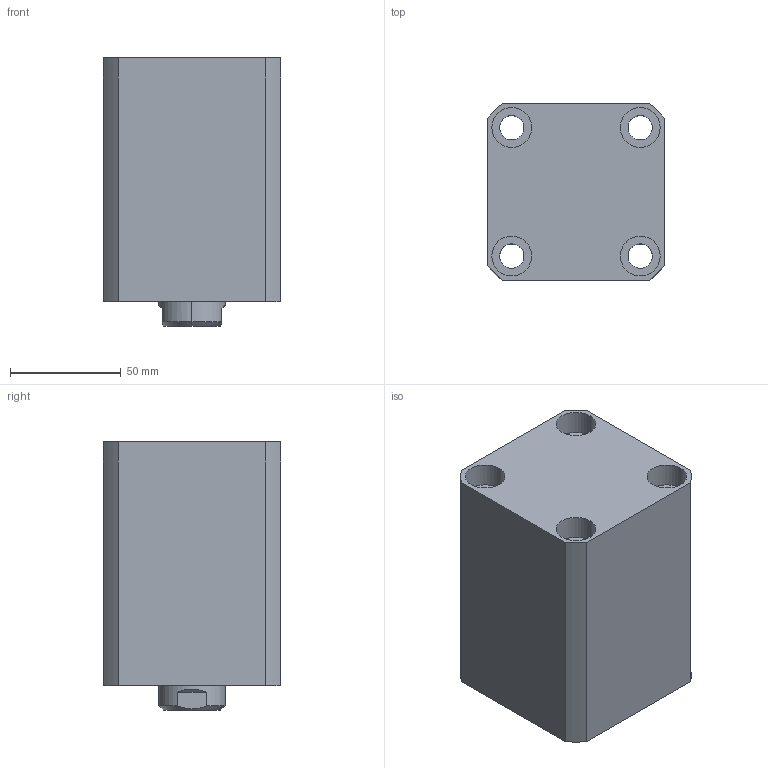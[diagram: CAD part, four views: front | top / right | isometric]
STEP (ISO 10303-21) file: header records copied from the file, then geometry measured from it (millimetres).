
FILE_DESCRIPTION (( 'STEP AP203' ), '1' );
FILE_NAME ('CHTB-SDMA50-50N.STEP', '2018-05-19T02:04:02', ( '' ), ( '' ), 'SwSTEP 2.0', 'SolidWorks 2015', '' );
FILE_SCHEMA (( 'CONFIG_CONTROL_DESIGN' ));
Length unit declared in the file: millimetre
Products named in the file (5): CHTB-SDMA50-50N; 掛极SDMA50-50N; CHTM-SDMA50QG; M6; 活塞杆SDMA50-45N
Assembly tree (5 placements, depth 2):
  CHTB-SDMA50-50N
    掛极SDMA50-50N
    活塞杆SDMA50-45N
    CHTM-SDMA50QG
    M6  x2
Bounding box: 80 x 80 x 121 mm (x, y, z)
Volume: 569069 mm3; surface area: 114188.5 mm2
Topology: 5 solids, 5 shells, 270 faces, 703 edges, 464 vertices
Faces by surface type: cylinder 139, plane 58, cone 31, bspline 26, torus 16
Entity records: 14133 total; most frequent: CARTESIAN_POINT 8131, ORIENTED_EDGE 1208, DIRECTION 1054, EDGE_CURVE 604, AXIS2_PLACEMENT_3D 433, VERTEX_POINT 403, EDGE_LOOP 277, ADVANCED_FACE 235
